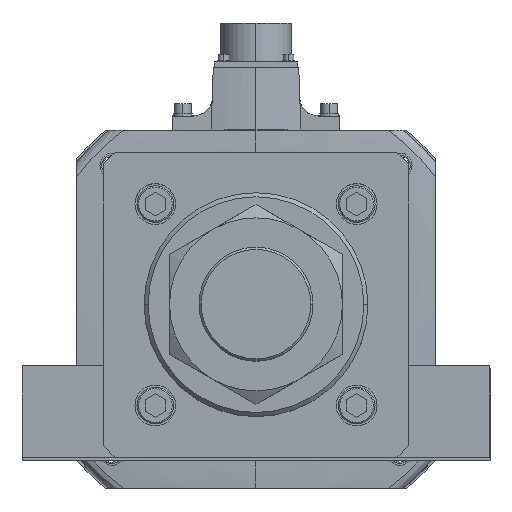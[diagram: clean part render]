
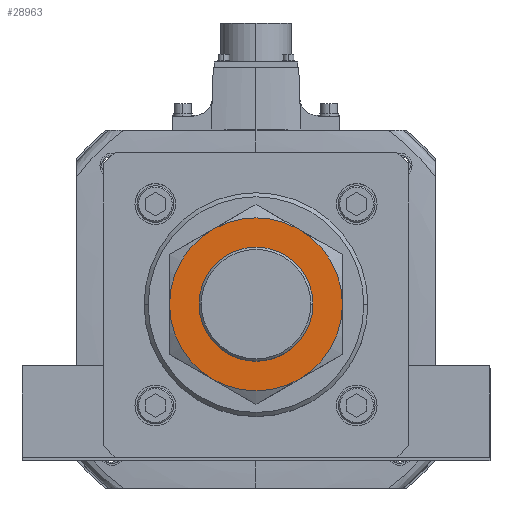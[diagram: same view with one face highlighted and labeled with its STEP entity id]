
A CAD part, top view. The second image highlights one B-rep face of the part: STEP entity #28963.
In plain terms, the highlighted planar face has unit normal (0, 0, 1).
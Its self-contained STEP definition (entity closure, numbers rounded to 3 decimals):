
#1 = VERTEX_POINT ( 'NONE', #44304 ) ;
#32 = DIRECTION ( 'NONE',  ( 1., 0., 0. ) ) ;
#428 = DIRECTION ( 'NONE',  ( 0., 0., -1. ) ) ;
#2067 = PLANE ( 'NONE',  #55188 ) ;
#2950 = AXIS2_PLACEMENT_3D ( 'NONE', #13128, #29984, #34662 ) ;
#3140 = DIRECTION ( 'NONE',  ( -1., 0., 0. ) ) ;
#5653 = EDGE_CURVE ( 'NONE', #18196, #25344, #24892, .T. ) ;
#6501 = AXIS2_PLACEMENT_3D ( 'NONE', #9039, #47860, #17981 ) ;
#6876 = EDGE_CURVE ( 'NONE', #11587, #32479, #35521, .T. ) ;
#7410 = CIRCLE ( 'NONE', #45746, 42.5 ) ;
#8495 = CARTESIAN_POINT ( 'NONE',  ( 0., 0., 34. ) ) ;
#9039 = CARTESIAN_POINT ( 'NONE',  ( 0., 0., 34. ) ) ;
#9229 = DIRECTION ( 'NONE',  ( 0., 0., 1. ) ) ;
#10149 = CARTESIAN_POINT ( 'NONE',  ( -21.25, -36.806, 34. ) ) ;
#10388 = ORIENTED_EDGE ( 'NONE', *, *, #47054, .F. ) ;
#10440 = CIRCLE ( 'NONE', #20904, 28. ) ;
#10660 = ORIENTED_EDGE ( 'NONE', *, *, #45477, .F. ) ;
#11587 = VERTEX_POINT ( 'NONE', #38817 ) ;
#13128 = CARTESIAN_POINT ( 'NONE',  ( 0., 0., 34. ) ) ;
#13872 = VERTEX_POINT ( 'NONE', #10149 ) ;
#14456 = AXIS2_PLACEMENT_3D ( 'NONE', #21488, #55567, #32 ) ;
#14839 = CIRCLE ( 'NONE', #2950, 42.5 ) ;
#15665 = CARTESIAN_POINT ( 'NONE',  ( 0., 0., 34. ) ) ;
#17981 = DIRECTION ( 'NONE',  ( 1., 0., 0. ) ) ;
#18196 = VERTEX_POINT ( 'NONE', #39695 ) ;
#20417 = FACE_BOUND ( 'NONE', #25085, .T. ) ;
#20904 = AXIS2_PLACEMENT_3D ( 'NONE', #52011, #9229, #42778 ) ;
#21315 = CIRCLE ( 'NONE', #23431, 42.5 ) ;
#21488 = CARTESIAN_POINT ( 'NONE',  ( 0., 0., 34. ) ) ;
#22548 = ORIENTED_EDGE ( 'NONE', *, *, #6876, .F. ) ;
#22850 = DIRECTION ( 'NONE',  ( 1., 0., 0. ) ) ;
#23169 = ORIENTED_EDGE ( 'NONE', *, *, #5653, .F. ) ;
#23431 = AXIS2_PLACEMENT_3D ( 'NONE', #8495, #428, #47688 ) ;
#24892 = CIRCLE ( 'NONE', #6501, 42.5 ) ;
#25085 = EDGE_LOOP ( 'NONE', ( #22548, #49584 ) ) ;
#25344 = VERTEX_POINT ( 'NONE', #37829 ) ;
#25709 = DIRECTION ( 'NONE',  ( 1., 0., 0. ) ) ;
#25887 = CIRCLE ( 'NONE', #36757, 42.5 ) ;
#26151 = VERTEX_POINT ( 'NONE', #47885 ) ;
#26956 = DIRECTION ( 'NONE',  ( 0., 0., 1. ) ) ;
#27881 = VERTEX_POINT ( 'NONE', #42183 ) ;
#27944 = EDGE_CURVE ( 'NONE', #26151, #27881, #37989, .T. ) ;
#28526 = EDGE_CURVE ( 'NONE', #32479, #11587, #10440, .T. ) ;
#28531 = ORIENTED_EDGE ( 'NONE', *, *, #46473, .F. ) ;
#28963 = ADVANCED_FACE ( 'NONE', ( #38527, #20417 ), #2067, .T. ) ;
#29728 = ORIENTED_EDGE ( 'NONE', *, *, #39181, .F. ) ;
#29984 = DIRECTION ( 'NONE',  ( 0., 0., -1. ) ) ;
#32200 = CARTESIAN_POINT ( 'NONE',  ( 28., 0., 34. ) ) ;
#32479 = VERTEX_POINT ( 'NONE', #32200 ) ;
#34192 = CARTESIAN_POINT ( 'NONE',  ( 0., 0., 34. ) ) ;
#34662 = DIRECTION ( 'NONE',  ( 1., 0., 0. ) ) ;
#35521 = CIRCLE ( 'NONE', #53684, 28. ) ;
#36757 = AXIS2_PLACEMENT_3D ( 'NONE', #15665, #54016, #3140 ) ;
#37829 = CARTESIAN_POINT ( 'NONE',  ( 21.25, -36.806, 34. ) ) ;
#37989 = CIRCLE ( 'NONE', #14456, 42.5 ) ;
#38527 = FACE_OUTER_BOUND ( 'NONE', #54942, .T. ) ;
#38817 = CARTESIAN_POINT ( 'NONE',  ( -28., 0., 34. ) ) ;
#39181 = EDGE_CURVE ( 'NONE', #1, #26151, #25887, .T. ) ;
#39695 = CARTESIAN_POINT ( 'NONE',  ( 42.5, 0., 34. ) ) ;
#42183 = CARTESIAN_POINT ( 'NONE',  ( 21.25, 36.806, 34. ) ) ;
#42778 = DIRECTION ( 'NONE',  ( 1., 0., 0. ) ) ;
#43880 = CARTESIAN_POINT ( 'NONE',  ( 0., 0., 34. ) ) ;
#44304 = CARTESIAN_POINT ( 'NONE',  ( -42.5, 0., 34. ) ) ;
#44971 = DIRECTION ( 'NONE',  ( 1., 0., 0. ) ) ;
#45477 = EDGE_CURVE ( 'NONE', #13872, #1, #14839, .T. ) ;
#45746 = AXIS2_PLACEMENT_3D ( 'NONE', #34192, #51522, #25709 ) ;
#46473 = EDGE_CURVE ( 'NONE', #25344, #13872, #7410, .T. ) ;
#47054 = EDGE_CURVE ( 'NONE', #27881, #18196, #21315, .T. ) ;
#47688 = DIRECTION ( 'NONE',  ( 1., 0., 0. ) ) ;
#47860 = DIRECTION ( 'NONE',  ( 0., 0., -1. ) ) ;
#47885 = CARTESIAN_POINT ( 'NONE',  ( -21.25, 36.806, 34. ) ) ;
#48376 = DIRECTION ( 'NONE',  ( 0., 0., 1. ) ) ;
#49584 = ORIENTED_EDGE ( 'NONE', *, *, #28526, .F. ) ;
#51522 = DIRECTION ( 'NONE',  ( 0., 0., -1. ) ) ;
#52011 = CARTESIAN_POINT ( 'NONE',  ( 0., 0., 34. ) ) ;
#52807 = ORIENTED_EDGE ( 'NONE', *, *, #27944, .F. ) ;
#53684 = AXIS2_PLACEMENT_3D ( 'NONE', #43880, #26956, #22850 ) ;
#53854 = CARTESIAN_POINT ( 'NONE',  ( 0., 0., 34. ) ) ;
#54016 = DIRECTION ( 'NONE',  ( 0., 0., -1. ) ) ;
#54942 = EDGE_LOOP ( 'NONE', ( #23169, #10388, #52807, #29728, #10660, #28531 ) ) ;
#55188 = AXIS2_PLACEMENT_3D ( 'NONE', #53854, #48376, #44971 ) ;
#55567 = DIRECTION ( 'NONE',  ( 0., 0., -1. ) ) ;
